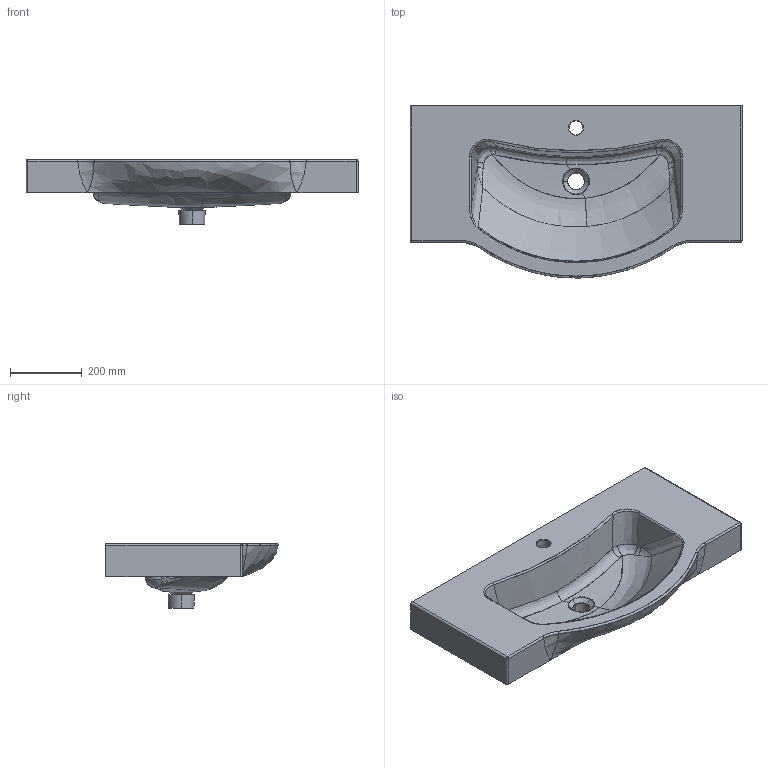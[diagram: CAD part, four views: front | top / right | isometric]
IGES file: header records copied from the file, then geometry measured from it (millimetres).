
Start section: START RECORD GO HERE.
Global section: file name: 3D BRENTA 92 art 8544.igs; native system: DASSAULT SYSTEMES CATIA V5 R19 - www.3ds.com; preprocessor: CATIA Version 5 Release 19 SP 5 ; author: Luca; organization: DESKTOP-V7SON24; date: 20220213.154604; units: millimetre
Bounding box: 925 x 479.73 x 180 mm (x, y, z)
Surface area: 849882.1 mm2 (no closed solid volume)
Topology: 0 solids, 0 shells, 79 faces, 364 edges, 358 vertices
Faces by surface type: bspline 50, revolution 20, plane 9
